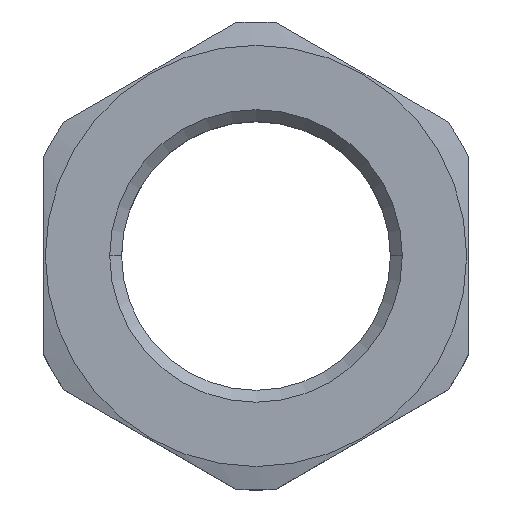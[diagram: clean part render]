
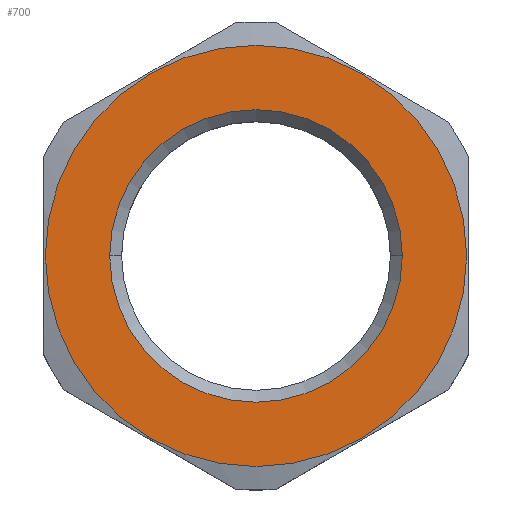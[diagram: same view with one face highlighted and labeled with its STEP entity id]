
A CAD part, top view. The second image highlights one B-rep face of the part: STEP entity #700.
In plain terms, the highlighted planar face has unit normal (0, 0, 1).
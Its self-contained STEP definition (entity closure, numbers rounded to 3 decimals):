
#643 = VERTEX_POINT ( 'NONE', #1605 ) ;
#649 = EDGE_CURVE ( 'NONE', #643, #650, #1597, .T. ) ;
#650 = VERTEX_POINT ( 'NONE', #1592 ) ;
#700 = ADVANCED_FACE ( 'NONE', ( #1504, #1503 ), #1502, .F. ) ;
#701 = ORIENTED_EDGE ( 'NONE', *, *, #702, .F. ) ;
#702 = EDGE_CURVE ( 'NONE', #650, #643, #1492, .T. ) ;
#703 = ORIENTED_EDGE ( 'NONE', *, *, #649, .F. ) ;
#704 = EDGE_LOOP ( 'NONE', ( #705, #706 ) ) ;
#705 = ORIENTED_EDGE ( 'NONE', *, *, #738, .T. ) ;
#706 = ORIENTED_EDGE ( 'NONE', *, *, #804, .T. ) ;
#722 = EDGE_LOOP ( 'NONE', ( #701, #703 ) ) ;
#727 = VERTEX_POINT ( 'NONE', #1426 ) ;
#738 = EDGE_CURVE ( 'NONE', #727, #873, #1645, .T. ) ;
#804 = EDGE_CURVE ( 'NONE', #873, #727, #1861, .T. ) ;
#873 = VERTEX_POINT ( 'NONE', #2037 ) ;
#1426 = CARTESIAN_POINT ( 'NONE',  ( -14.4, 0., 0. ) ) ;
#1457 = DIRECTION ( 'NONE',  ( 1., 0., 0. ) ) ;
#1458 = DIRECTION ( 'NONE',  ( 0., 0., 1. ) ) ;
#1490 = CARTESIAN_POINT ( 'NONE',  ( 0., 0., 0. ) ) ;
#1491 = AXIS2_PLACEMENT_3D ( 'NONE', #1490, #1458, #1457 ) ;
#1492 = CIRCLE ( 'NONE', #1491, 10. ) ;
#1493 = DIRECTION ( 'NONE',  ( -1., 0., 0. ) ) ;
#1494 = DIRECTION ( 'NONE',  ( 0., 0., -1. ) ) ;
#1495 = CARTESIAN_POINT ( 'NONE',  ( 0., 0., 0. ) ) ;
#1496 = AXIS2_PLACEMENT_3D ( 'NONE', #1495, #1494, #1493 ) ;
#1502 = PLANE ( 'NONE',  #1496 ) ;
#1503 = FACE_OUTER_BOUND ( 'NONE', #704, .T. ) ;
#1504 = FACE_BOUND ( 'NONE', #722, .T. ) ;
#1592 = CARTESIAN_POINT ( 'NONE',  ( 10., 0., 0. ) ) ;
#1593 = DIRECTION ( 'NONE',  ( 1., 0., 0. ) ) ;
#1594 = DIRECTION ( 'NONE',  ( 0., 0., 1. ) ) ;
#1595 = CARTESIAN_POINT ( 'NONE',  ( 0., 0., 0. ) ) ;
#1596 = AXIS2_PLACEMENT_3D ( 'NONE', #1595, #1594, #1593 ) ;
#1597 = CIRCLE ( 'NONE', #1596, 10. ) ;
#1605 = CARTESIAN_POINT ( 'NONE',  ( -10., 0., 0. ) ) ;
#1642 = DIRECTION ( 'NONE',  ( 0., 0., 1. ) ) ;
#1643 = CARTESIAN_POINT ( 'NONE',  ( 0., 0., 0. ) ) ;
#1644 = AXIS2_PLACEMENT_3D ( 'NONE', #1643, #1642, #1845 ) ;
#1645 = CIRCLE ( 'NONE', #1644, 14.4 ) ;
#1845 = DIRECTION ( 'NONE',  ( 1., 0., 0. ) ) ;
#1858 = DIRECTION ( 'NONE',  ( 1., 0., 0. ) ) ;
#1859 = DIRECTION ( 'NONE',  ( 0., 0., 1. ) ) ;
#1860 = AXIS2_PLACEMENT_3D ( 'NONE', #1867, #1859, #1858 ) ;
#1861 = CIRCLE ( 'NONE', #1860, 14.4 ) ;
#1867 = CARTESIAN_POINT ( 'NONE',  ( 0., 0., 0. ) ) ;
#2037 = CARTESIAN_POINT ( 'NONE',  ( 14.4, 0., 0. ) ) ;
